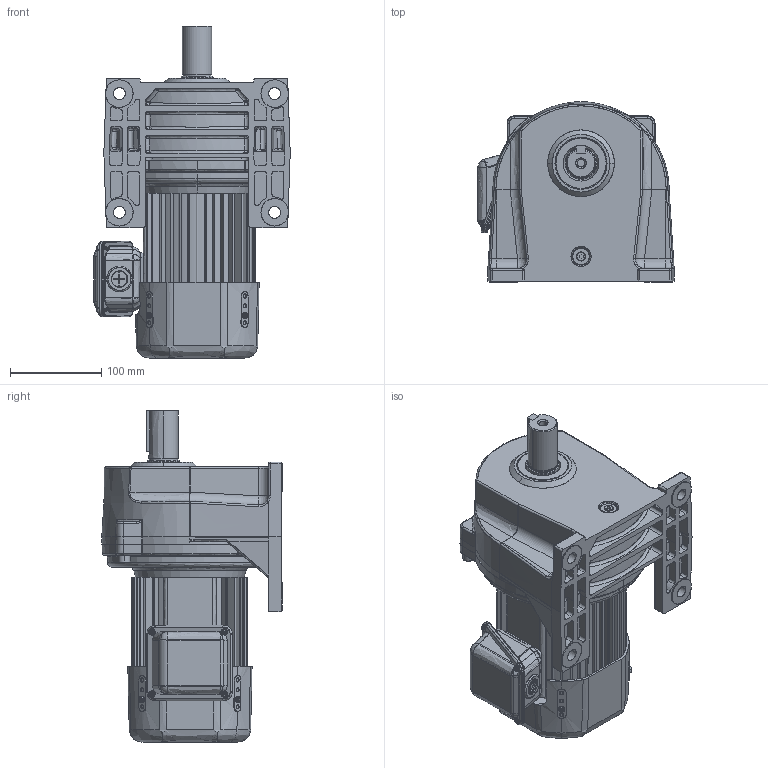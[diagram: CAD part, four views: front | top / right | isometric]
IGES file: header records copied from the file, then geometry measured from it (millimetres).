
Start section: SolidWorks IGES file using analytic representation for surfaces
Global section: file name: \\100.100.100.8\1_共有作業フォルダ\1-5_３Ｄデータ\solidworks\personal-folder\H.Nagayama\SGP1外形\P1(3D)\igs\TML2-04-(100~200).IGS; native system: SolidWorks 2018; preprocessor: SolidWorks 2018; author: sigma-giken; date: 200508.143503; units: millimetre
Bounding box: 215 x 197.5 x 363.5 mm (x, y, z)
Surface area: 564076.5 mm2 (no closed solid volume)
Topology: 0 solids, 0 shells, 1865 faces, 23837 edges, 23811 vertices
Faces by surface type: bspline 985, revolution 880
